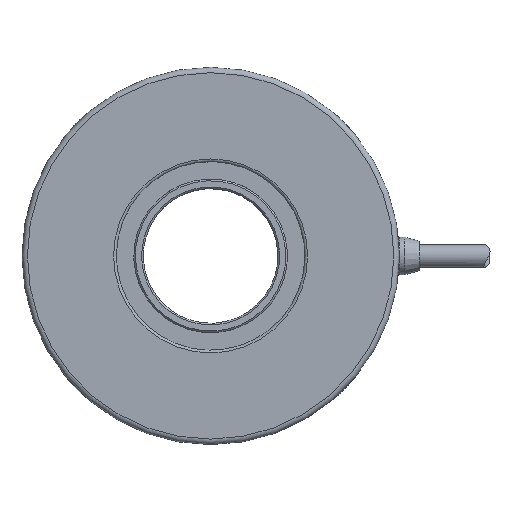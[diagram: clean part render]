
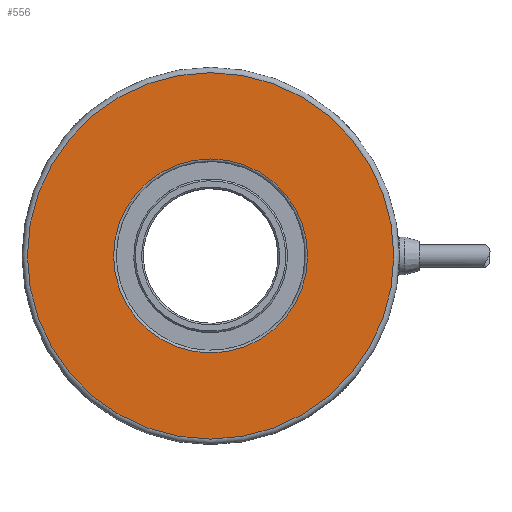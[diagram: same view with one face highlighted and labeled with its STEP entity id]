
A CAD part, top view. The second image highlights one B-rep face of the part: STEP entity #556.
In plain terms, the highlighted planar face has unit normal (0, 0, 1).
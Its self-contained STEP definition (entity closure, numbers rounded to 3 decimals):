
#556=ADVANCED_FACE('',(#907,#908),#909,.F.);
#907=FACE_OUTER_BOUND('',#1331,.T.);
#908=FACE_BOUND('',#1332,.T.);
#909=PLANE('',#1333);
#1331=EDGE_LOOP('',(#1785));
#1332=EDGE_LOOP('',(#1786));
#1333=AXIS2_PLACEMENT_3D('',#1787,#1788,#1789);
#1785=ORIENTED_EDGE('',*,*,#2456,.T.);
#1786=ORIENTED_EDGE('',*,*,#2454,.T.);
#1787=CARTESIAN_POINT('',(0.,-26.25,16.5));
#1788=DIRECTION('',(0.,0.,-1.0));
#1789=DIRECTION('',(0.,1.0,0.));
#2454=EDGE_CURVE('',#2770,#2770,#2771,.T.);
#2456=EDGE_CURVE('',#2773,#2773,#2774,.F.);
#2770=VERTEX_POINT('',#3697);
#2771=CIRCLE('',#3698,18.0);
#2773=VERTEX_POINT('',#3700);
#2774=CIRCLE('',#3701,34.0);
#3697=CARTESIAN_POINT('',(0.,18.0,16.5));
#3698=AXIS2_PLACEMENT_3D('',#4189,#4190,#4191);
#3700=CARTESIAN_POINT('',(0.,34.0,16.5));
#3701=AXIS2_PLACEMENT_3D('',#4192,#4193,#4194);
#4189=CARTESIAN_POINT('',(0.,0.,16.5));
#4190=DIRECTION('',(0.,0.,-1.0));
#4191=DIRECTION('',(0.,1.0,0.));
#4192=CARTESIAN_POINT('',(0.,0.,16.5));
#4193=DIRECTION('',(0.,0.,-1.0));
#4194=DIRECTION('',(0.,1.0,0.));
